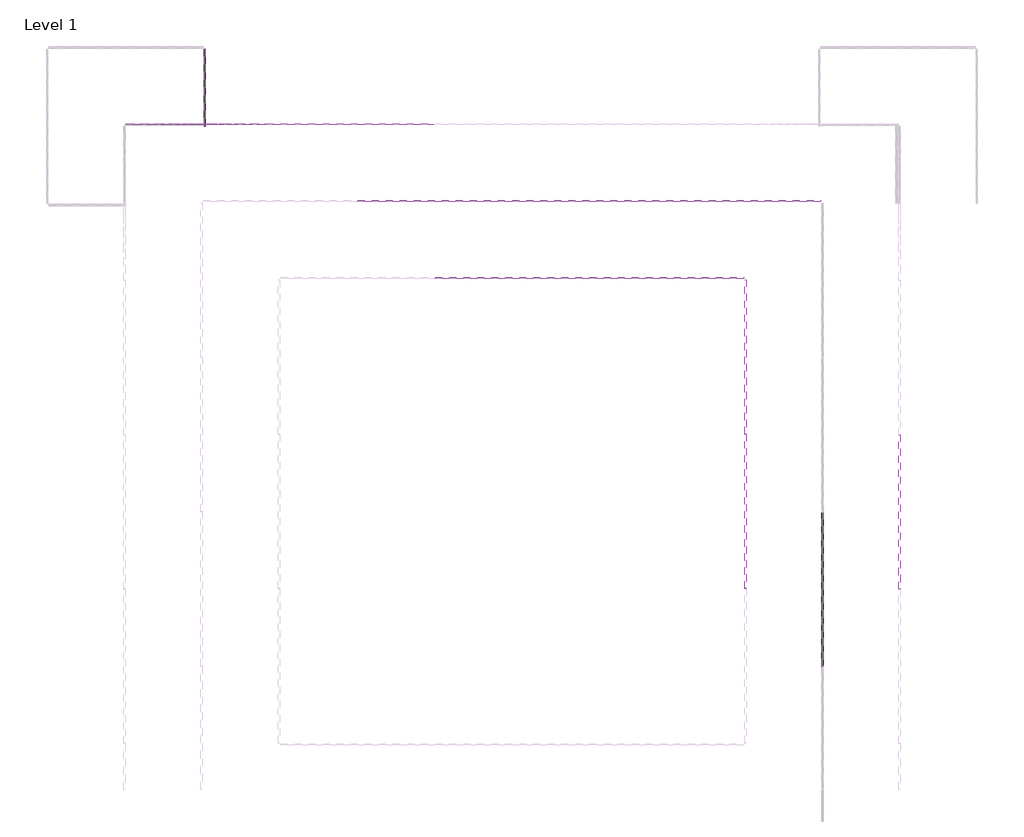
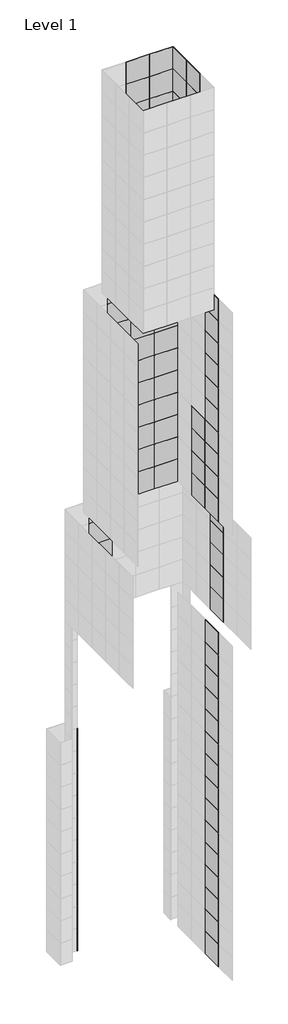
# One storey, part 9 of 15: 134 plates.
"""IFC4 building model written with IfcOpenShell, lengths in millimetres."""

from ifc_helpers import new_model, si_unit, origin, place, context, project, spatial, transform, mapped, element, save
from components import system_panel_glazed_9c75bc08, system_panel_glazed_0a0842ec, system_panel_glazed_aa64d645, system_panel_glazed_b248394d

model = new_model("IFC4")

# Units and contexts
model_context = context("Model", 3, world=origin())
ifc_project = project(units=[si_unit("LENGTHUNIT", "METRE", prefix="MILLI")], contexts=[model_context])

# Site, building, storey
site = spatial("IfcSite", under=ifc_project)
building = spatial("IfcBuilding", under=site)
storey = spatial("IfcBuildingStorey", under=building, Name="Level 1", Elevation=0.0)

# Plates
placement = place(None, origin())
system_panel_glazed_shape = system_panel_glazed_9c75bc08(model_context)
element("IfcPlate", 1, ObjectType="System Panel : Glazed", at=placement, inside=storey, context=model_context, shape_type="MappedRepresentation", body=[
    mapped(system_panel_glazed_shape, transform((-19315.4161695, 10259.9495511, 0.0), x_axis=(0.0, 1.0, 0.0), y_axis=(-1.0, 0.0, 0.0), z_axis=(0.0, 0.0, 1.0))),
])
element("IfcPlate", 2, ObjectType="System Panel : Glazed", at=placement, inside=storey, context=model_context, shape_type="MappedRepresentation", body=[
    mapped(system_panel_glazed_shape, transform((-19315.4161695, 10259.9495511, 3048.0), x_axis=(0.0, 1.0, 0.0), y_axis=(-1.0, 0.0, 0.0), z_axis=(0.0, 0.0, 1.0))),
])
element("IfcPlate", 3, ObjectType="System Panel : Glazed", at=placement, inside=storey, context=model_context, shape_type="MappedRepresentation", body=[
    mapped(system_panel_glazed_shape, transform((-19315.4161695, 10259.9495511, 6096.0), x_axis=(0.0, 1.0, 0.0), y_axis=(-1.0, 0.0, 0.0), z_axis=(0.0, 0.0, 1.0))),
])
element("IfcPlate", 4, ObjectType="System Panel : Glazed", at=placement, inside=storey, context=model_context, shape_type="MappedRepresentation", body=[
    mapped(system_panel_glazed_shape, transform((-19315.4161695, 10259.9495511, 9144.0), x_axis=(0.0, 1.0, 0.0), y_axis=(-1.0, 0.0, 0.0), z_axis=(0.0, 0.0, 1.0))),
])
element("IfcPlate", 5, ObjectType="System Panel : Glazed", at=placement, inside=storey, context=model_context, shape_type="MappedRepresentation", body=[
    mapped(system_panel_glazed_shape, transform((-19315.4161695, 10259.9495511, 12192.0), x_axis=(0.0, 1.0, 0.0), y_axis=(-1.0, 0.0, 0.0), z_axis=(0.0, 0.0, 1.0))),
])
element("IfcPlate", 6, ObjectType="System Panel : Glazed", at=placement, inside=storey, context=model_context, shape_type="MappedRepresentation", body=[
    mapped(system_panel_glazed_shape, transform((-19315.4161695, 10259.9495511, 15240.0), x_axis=(0.0, 1.0, 0.0), y_axis=(-1.0, 0.0, 0.0), z_axis=(0.0, 0.0, 1.0))),
])
element("IfcPlate", 7, ObjectType="System Panel : Glazed", at=placement, inside=storey, context=model_context, shape_type="MappedRepresentation", body=[
    mapped(system_panel_glazed_shape, transform((-19315.4161695, 10259.9495511, 18288.0), x_axis=(0.0, 1.0, 0.0), y_axis=(-1.0, 0.0, 0.0), z_axis=(0.0, 0.0, 1.0))),
])
element("IfcPlate", 8, ObjectType="System Panel : Glazed", at=placement, inside=storey, context=model_context, shape_type="MappedRepresentation", body=[
    mapped(system_panel_glazed_shape, transform((-19315.4161695, 10259.9495511, 21336.0), x_axis=(0.0, 1.0, 0.0), y_axis=(-1.0, 0.0, 0.0), z_axis=(0.0, 0.0, 1.0))),
])
element("IfcPlate", 9, ObjectType="System Panel : Glazed", at=placement, inside=storey, context=model_context, shape_type="MappedRepresentation", body=[
    mapped(system_panel_glazed_shape, transform((-19315.4161695, 10259.9495511, 24384.0), x_axis=(0.0, 1.0, 0.0), y_axis=(-1.0, 0.0, 0.0), z_axis=(0.0, 0.0, 1.0))),
])
element("IfcPlate", 10, ObjectType="System Panel : Glazed", at=placement, inside=storey, context=model_context, shape_type="MappedRepresentation", body=[
    mapped(system_panel_glazed_shape, transform((-19315.4161695, 10259.9495511, 27432.0), x_axis=(0.0, 1.0, 0.0), y_axis=(-1.0, 0.0, 0.0), z_axis=(0.0, 0.0, 1.0))),
])
system_panel_glazed_2_shape = system_panel_glazed_0a0842ec(model_context)
element("IfcPlate", 11, ObjectType="System Panel : Glazed", at=placement, inside=storey, context=model_context, shape_type="MappedRepresentation", body=[
    mapped(system_panel_glazed_2_shape, transform((-19315.4161695, 9497.9495511, 45720.0), x_axis=(-1.0, 0.0, 0.0), y_axis=(0.0, -1.0, 0.0), z_axis=(0.0, 0.0, 1.0))),
])
system_panel_glazed_3_shape = system_panel_glazed_aa64d645(model_context)
element("IfcPlate", 12, ObjectType="System Panel : Glazed", at=placement, inside=storey, context=model_context, shape_type="MappedRepresentation", body=[
    mapped(system_panel_glazed_3_shape, transform((-5599.4161695, 1877.9495511, 45720.0), x_axis=(0.0, 1.0, 0.0), y_axis=(-1.0, 0.0, 0.0), z_axis=(0.0, 0.0, 1.0))),
])
element("IfcPlate", 13, ObjectType="System Panel : Glazed", at=placement, inside=storey, context=model_context, shape_type="MappedRepresentation", body=[
    mapped(system_panel_glazed_3_shape, transform((-5599.4161695, 1877.9495511, 48768.0), x_axis=(0.0, 1.0, 0.0), y_axis=(-1.0, 0.0, 0.0), z_axis=(0.0, 0.0, 1.0))),
])
element("IfcPlate", 14, ObjectType="System Panel : Glazed", at=placement, inside=storey, context=model_context, shape_type="MappedRepresentation", body=[
    mapped(system_panel_glazed_3_shape, transform((-5599.4161695, 1877.9495511, 51816.0), x_axis=(0.0, 1.0, 0.0), y_axis=(-1.0, 0.0, 0.0), z_axis=(0.0, 0.0, 1.0))),
])
element("IfcPlate", 15, ObjectType="System Panel : Glazed", at=placement, inside=storey, context=model_context, shape_type="MappedRepresentation", body=[
    mapped(system_panel_glazed_3_shape, transform((-5599.4161695, 1877.9495511, 54864.0), x_axis=(0.0, 1.0, 0.0), y_axis=(-1.0, 0.0, 0.0), z_axis=(0.0, 0.0, 1.0))),
])
element("IfcPlate", 16, ObjectType="System Panel : Glazed", at=placement, inside=storey, context=model_context, shape_type="MappedRepresentation", body=[
    mapped(system_panel_glazed_3_shape, transform((-5599.4161695, 1877.9495511, 57912.0), x_axis=(0.0, 1.0, 0.0), y_axis=(-1.0, 0.0, 0.0), z_axis=(0.0, 0.0, 1.0))),
])
element("IfcPlate", 17, ObjectType="System Panel : Glazed", at=placement, inside=storey, context=model_context, shape_type="MappedRepresentation", body=[
    mapped(system_panel_glazed_3_shape, transform((-16267.4161695, 9497.9495511, 45720.0), x_axis=(-1.0, 0.0, 0.0), y_axis=(0.0, -1.0, 0.0), z_axis=(0.0, 0.0, 1.0))),
])
element("IfcPlate", 18, ObjectType="System Panel : Glazed", at=placement, inside=storey, context=model_context, shape_type="MappedRepresentation", body=[
    mapped(system_panel_glazed_3_shape, transform((-16267.4161695, 9497.9495511, 48768.0), x_axis=(-1.0, 0.0, 0.0), y_axis=(0.0, -1.0, 0.0), z_axis=(0.0, 0.0, 1.0))),
])
element("IfcPlate", 19, ObjectType="System Panel : Glazed", at=placement, inside=storey, context=model_context, shape_type="MappedRepresentation", body=[
    mapped(system_panel_glazed_3_shape, transform((-16267.4161695, 9497.9495511, 51816.0), x_axis=(-1.0, 0.0, 0.0), y_axis=(0.0, -1.0, 0.0), z_axis=(0.0, 0.0, 1.0))),
])
element("IfcPlate", 20, ObjectType="System Panel : Glazed", at=placement, inside=storey, context=model_context, shape_type="MappedRepresentation", body=[
    mapped(system_panel_glazed_3_shape, transform((-16267.4161695, 9497.9495511, 54864.0), x_axis=(-1.0, 0.0, 0.0), y_axis=(0.0, -1.0, 0.0), z_axis=(0.0, 0.0, 1.0))),
])
element("IfcPlate", 21, ObjectType="System Panel : Glazed", at=placement, inside=storey, context=model_context, shape_type="MappedRepresentation", body=[
    mapped(system_panel_glazed_3_shape, transform((-16267.4161695, 9497.9495511, 57912.0), x_axis=(-1.0, 0.0, 0.0), y_axis=(0.0, -1.0, 0.0), z_axis=(0.0, 0.0, 1.0))),
])
element("IfcPlate", 22, ObjectType="System Panel : Glazed", at=placement, inside=storey, context=model_context, shape_type="MappedRepresentation", body=[
    mapped(system_panel_glazed_3_shape, transform((-7123.4161695, 353.9495511, 60960.0), x_axis=(0.0, 1.0, 0.0), y_axis=(-1.0, 0.0, 0.0), z_axis=(0.0, 0.0, 1.0))),
])
element("IfcPlate", 23, ObjectType="System Panel : Glazed", at=placement, inside=storey, context=model_context, shape_type="MappedRepresentation", body=[
    mapped(system_panel_glazed_3_shape, transform((-7123.4161695, 3401.9495511, 60960.0), x_axis=(0.0, 1.0, 0.0), y_axis=(-1.0, 0.0, 0.0), z_axis=(0.0, 0.0, 1.0))),
])
element("IfcPlate", 24, ObjectType="System Panel : Glazed", at=placement, inside=storey, context=model_context, shape_type="MappedRepresentation", body=[
    mapped(system_panel_glazed_3_shape, transform((-7123.4161695, 353.9495511, 64008.0), x_axis=(0.0, 1.0, 0.0), y_axis=(-1.0, 0.0, 0.0), z_axis=(0.0, 0.0, 1.0))),
])
element("IfcPlate", 25, ObjectType="System Panel : Glazed", at=placement, inside=storey, context=model_context, shape_type="MappedRepresentation", body=[
    mapped(system_panel_glazed_3_shape, transform((-7123.4161695, 3401.9495511, 64008.0), x_axis=(0.0, 1.0, 0.0), y_axis=(-1.0, 0.0, 0.0), z_axis=(0.0, 0.0, 1.0))),
])
element("IfcPlate", 26, ObjectType="System Panel : Glazed", at=placement, inside=storey, context=model_context, shape_type="MappedRepresentation", body=[
    mapped(system_panel_glazed_3_shape, transform((-7123.4161695, 353.9495511, 67056.0), x_axis=(0.0, 1.0, 0.0), y_axis=(-1.0, 0.0, 0.0), z_axis=(0.0, 0.0, 1.0))),
])
element("IfcPlate", 27, ObjectType="System Panel : Glazed", at=placement, inside=storey, context=model_context, shape_type="MappedRepresentation", body=[
    mapped(system_panel_glazed_3_shape, transform((-7123.4161695, 3401.9495511, 67056.0), x_axis=(0.0, 1.0, 0.0), y_axis=(-1.0, 0.0, 0.0), z_axis=(0.0, 0.0, 1.0))),
])
element("IfcPlate", 28, ObjectType="System Panel : Glazed", at=placement, inside=storey, context=model_context, shape_type="MappedRepresentation", body=[
    mapped(system_panel_glazed_3_shape, transform((-7123.4161695, 353.9495511, 70104.0), x_axis=(0.0, 1.0, 0.0), y_axis=(-1.0, 0.0, 0.0), z_axis=(0.0, 0.0, 1.0))),
])
element("IfcPlate", 29, ObjectType="System Panel : Glazed", at=placement, inside=storey, context=model_context, shape_type="MappedRepresentation", body=[
    mapped(system_panel_glazed_3_shape, transform((-7123.4161695, 3401.9495511, 70104.0), x_axis=(0.0, 1.0, 0.0), y_axis=(-1.0, 0.0, 0.0), z_axis=(0.0, 0.0, 1.0))),
])
element("IfcPlate", 30, ObjectType="System Panel : Glazed", at=placement, inside=storey, context=model_context, shape_type="MappedRepresentation", body=[
    mapped(system_panel_glazed_3_shape, transform((-7123.4161695, 353.9495511, 73152.0), x_axis=(0.0, 1.0, 0.0), y_axis=(-1.0, 0.0, 0.0), z_axis=(0.0, 0.0, 1.0))),
])
element("IfcPlate", 31, ObjectType="System Panel : Glazed", at=placement, inside=storey, context=model_context, shape_type="MappedRepresentation", body=[
    mapped(system_panel_glazed_3_shape, transform((-7123.4161695, 353.9495511, 76200.0), x_axis=(0.0, 1.0, 0.0), y_axis=(-1.0, 0.0, 0.0), z_axis=(0.0, 0.0, 1.0))),
])
element("IfcPlate", 32, ObjectType="System Panel : Glazed", at=placement, inside=storey, context=model_context, shape_type="MappedRepresentation", body=[
    mapped(system_panel_glazed_3_shape, transform((-7123.4161695, 353.9495511, 79248.0), x_axis=(0.0, 1.0, 0.0), y_axis=(-1.0, 0.0, 0.0), z_axis=(0.0, 0.0, 1.0))),
])
element("IfcPlate", 33, ObjectType="System Panel : Glazed", at=placement, inside=storey, context=model_context, shape_type="MappedRepresentation", body=[
    mapped(system_panel_glazed_3_shape, transform((-7123.4161695, 353.9495511, 82296.0), x_axis=(0.0, 1.0, 0.0), y_axis=(-1.0, 0.0, 0.0), z_axis=(0.0, 0.0, 1.0))),
])
element("IfcPlate", 34, ObjectType="System Panel : Glazed", at=placement, inside=storey, context=model_context, shape_type="MappedRepresentation", body=[
    mapped(system_panel_glazed_3_shape, transform((-7123.4161695, 353.9495511, 85344.0), x_axis=(0.0, 1.0, 0.0), y_axis=(-1.0, 0.0, 0.0), z_axis=(0.0, 0.0, 1.0))),
])
element("IfcPlate", 35, ObjectType="System Panel : Glazed", at=placement, inside=storey, context=model_context, shape_type="MappedRepresentation", body=[
    mapped(system_panel_glazed_3_shape, transform((-7123.4161695, 353.9495511, 88392.0), x_axis=(0.0, 1.0, 0.0), y_axis=(-1.0, 0.0, 0.0), z_axis=(0.0, 0.0, 1.0))),
])
element("IfcPlate", 36, ObjectType="System Panel : Glazed", at=placement, inside=storey, context=model_context, shape_type="MappedRepresentation", body=[
    mapped(system_panel_glazed_3_shape, transform((-8647.4161695, 7973.9495511, 60960.0), x_axis=(-1.0, 0.0, 0.0), y_axis=(0.0, -1.0, 0.0), z_axis=(0.0, 0.0, 1.0))),
])
element("IfcPlate", 37, ObjectType="System Panel : Glazed", at=placement, inside=storey, context=model_context, shape_type="MappedRepresentation", body=[
    mapped(system_panel_glazed_3_shape, transform((-11695.4161695, 7973.9495511, 60960.0), x_axis=(-1.0, 0.0, 0.0), y_axis=(0.0, -1.0, 0.0), z_axis=(0.0, 0.0, 1.0))),
])
element("IfcPlate", 38, ObjectType="System Panel : Glazed", at=placement, inside=storey, context=model_context, shape_type="MappedRepresentation", body=[
    mapped(system_panel_glazed_3_shape, transform((-14743.4161695, 7973.9495511, 60960.0), x_axis=(-1.0, 0.0, 0.0), y_axis=(0.0, -1.0, 0.0), z_axis=(0.0, 0.0, 1.0))),
])
element("IfcPlate", 39, ObjectType="System Panel : Glazed", at=placement, inside=storey, context=model_context, shape_type="MappedRepresentation", body=[
    mapped(system_panel_glazed_3_shape, transform((-8647.4161695, 7973.9495511, 64008.0), x_axis=(-1.0, 0.0, 0.0), y_axis=(0.0, -1.0, 0.0), z_axis=(0.0, 0.0, 1.0))),
])
element("IfcPlate", 40, ObjectType="System Panel : Glazed", at=placement, inside=storey, context=model_context, shape_type="MappedRepresentation", body=[
    mapped(system_panel_glazed_3_shape, transform((-11695.4161695, 7973.9495511, 64008.0), x_axis=(-1.0, 0.0, 0.0), y_axis=(0.0, -1.0, 0.0), z_axis=(0.0, 0.0, 1.0))),
])
element("IfcPlate", 41, ObjectType="System Panel : Glazed", at=placement, inside=storey, context=model_context, shape_type="MappedRepresentation", body=[
    mapped(system_panel_glazed_3_shape, transform((-14743.4161695, 7973.9495511, 64008.0), x_axis=(-1.0, 0.0, 0.0), y_axis=(0.0, -1.0, 0.0), z_axis=(0.0, 0.0, 1.0))),
])
element("IfcPlate", 42, ObjectType="System Panel : Glazed", at=placement, inside=storey, context=model_context, shape_type="MappedRepresentation", body=[
    mapped(system_panel_glazed_3_shape, transform((-8647.4161695, 7973.9495511, 67056.0), x_axis=(-1.0, 0.0, 0.0), y_axis=(0.0, -1.0, 0.0), z_axis=(0.0, 0.0, 1.0))),
])
element("IfcPlate", 43, ObjectType="System Panel : Glazed", at=placement, inside=storey, context=model_context, shape_type="MappedRepresentation", body=[
    mapped(system_panel_glazed_3_shape, transform((-11695.4161695, 7973.9495511, 67056.0), x_axis=(-1.0, 0.0, 0.0), y_axis=(0.0, -1.0, 0.0), z_axis=(0.0, 0.0, 1.0))),
])
element("IfcPlate", 44, ObjectType="System Panel : Glazed", at=placement, inside=storey, context=model_context, shape_type="MappedRepresentation", body=[
    mapped(system_panel_glazed_3_shape, transform((-14743.4161695, 7973.9495511, 67056.0), x_axis=(-1.0, 0.0, 0.0), y_axis=(0.0, -1.0, 0.0), z_axis=(0.0, 0.0, 1.0))),
])
element("IfcPlate", 45, ObjectType="System Panel : Glazed", at=placement, inside=storey, context=model_context, shape_type="MappedRepresentation", body=[
    mapped(system_panel_glazed_3_shape, transform((-8647.4161695, 7973.9495511, 70104.0), x_axis=(-1.0, 0.0, 0.0), y_axis=(0.0, -1.0, 0.0), z_axis=(0.0, 0.0, 1.0))),
])
element("IfcPlate", 46, ObjectType="System Panel : Glazed", at=placement, inside=storey, context=model_context, shape_type="MappedRepresentation", body=[
    mapped(system_panel_glazed_3_shape, transform((-11695.4161695, 7973.9495511, 70104.0), x_axis=(-1.0, 0.0, 0.0), y_axis=(0.0, -1.0, 0.0), z_axis=(0.0, 0.0, 1.0))),
])
element("IfcPlate", 47, ObjectType="System Panel : Glazed", at=placement, inside=storey, context=model_context, shape_type="MappedRepresentation", body=[
    mapped(system_panel_glazed_3_shape, transform((-14743.4161695, 7973.9495511, 70104.0), x_axis=(-1.0, 0.0, 0.0), y_axis=(0.0, -1.0, 0.0), z_axis=(0.0, 0.0, 1.0))),
])
element("IfcPlate", 48, ObjectType="System Panel : Glazed", at=placement, inside=storey, context=model_context, shape_type="MappedRepresentation", body=[
    mapped(system_panel_glazed_3_shape, transform((-8647.4161695, 7973.9495511, 73152.0), x_axis=(-1.0, 0.0, 0.0), y_axis=(0.0, -1.0, 0.0), z_axis=(0.0, 0.0, 1.0))),
])
element("IfcPlate", 49, ObjectType="System Panel : Glazed", at=placement, inside=storey, context=model_context, shape_type="MappedRepresentation", body=[
    mapped(system_panel_glazed_3_shape, transform((-11695.4161695, 7973.9495511, 73152.0), x_axis=(-1.0, 0.0, 0.0), y_axis=(0.0, -1.0, 0.0), z_axis=(0.0, 0.0, 1.0))),
])
element("IfcPlate", 50, ObjectType="System Panel : Glazed", at=placement, inside=storey, context=model_context, shape_type="MappedRepresentation", body=[
    mapped(system_panel_glazed_3_shape, transform((-14743.4161695, 7973.9495511, 73152.0), x_axis=(-1.0, 0.0, 0.0), y_axis=(0.0, -1.0, 0.0), z_axis=(0.0, 0.0, 1.0))),
])
element("IfcPlate", 51, ObjectType="System Panel : Glazed", at=placement, inside=storey, context=model_context, shape_type="MappedRepresentation", body=[
    mapped(system_panel_glazed_3_shape, transform((-8647.4161695, 7973.9495511, 76200.0), x_axis=(-1.0, 0.0, 0.0), y_axis=(0.0, -1.0, 0.0), z_axis=(0.0, 0.0, 1.0))),
])
element("IfcPlate", 52, ObjectType="System Panel : Glazed", at=placement, inside=storey, context=model_context, shape_type="MappedRepresentation", body=[
    mapped(system_panel_glazed_3_shape, transform((-11695.4161695, 7973.9495511, 76200.0), x_axis=(-1.0, 0.0, 0.0), y_axis=(0.0, -1.0, 0.0), z_axis=(0.0, 0.0, 1.0))),
])
element("IfcPlate", 53, ObjectType="System Panel : Glazed", at=placement, inside=storey, context=model_context, shape_type="MappedRepresentation", body=[
    mapped(system_panel_glazed_3_shape, transform((-14743.4161695, 7973.9495511, 76200.0), x_axis=(-1.0, 0.0, 0.0), y_axis=(0.0, -1.0, 0.0), z_axis=(0.0, 0.0, 1.0))),
])
element("IfcPlate", 54, ObjectType="System Panel : Glazed", at=placement, inside=storey, context=model_context, shape_type="MappedRepresentation", body=[
    mapped(system_panel_glazed_3_shape, transform((-8647.4161695, 7973.9495511, 79248.0), x_axis=(-1.0, 0.0, 0.0), y_axis=(0.0, -1.0, 0.0), z_axis=(0.0, 0.0, 1.0))),
])
element("IfcPlate", 55, ObjectType="System Panel : Glazed", at=placement, inside=storey, context=model_context, shape_type="MappedRepresentation", body=[
    mapped(system_panel_glazed_3_shape, transform((-11695.4161695, 7973.9495511, 79248.0), x_axis=(-1.0, 0.0, 0.0), y_axis=(0.0, -1.0, 0.0), z_axis=(0.0, 0.0, 1.0))),
])
element("IfcPlate", 56, ObjectType="System Panel : Glazed", at=placement, inside=storey, context=model_context, shape_type="MappedRepresentation", body=[
    mapped(system_panel_glazed_3_shape, transform((-14743.4161695, 7973.9495511, 79248.0), x_axis=(-1.0, 0.0, 0.0), y_axis=(0.0, -1.0, 0.0), z_axis=(0.0, 0.0, 1.0))),
])
element("IfcPlate", 57, ObjectType="System Panel : Glazed", at=placement, inside=storey, context=model_context, shape_type="MappedRepresentation", body=[
    mapped(system_panel_glazed_3_shape, transform((-8647.4161695, 7973.9495511, 82296.0), x_axis=(-1.0, 0.0, 0.0), y_axis=(0.0, -1.0, 0.0), z_axis=(0.0, 0.0, 1.0))),
])
element("IfcPlate", 58, ObjectType="System Panel : Glazed", at=placement, inside=storey, context=model_context, shape_type="MappedRepresentation", body=[
    mapped(system_panel_glazed_3_shape, transform((-11695.4161695, 7973.9495511, 82296.0), x_axis=(-1.0, 0.0, 0.0), y_axis=(0.0, -1.0, 0.0), z_axis=(0.0, 0.0, 1.0))),
])
element("IfcPlate", 59, ObjectType="System Panel : Glazed", at=placement, inside=storey, context=model_context, shape_type="MappedRepresentation", body=[
    mapped(system_panel_glazed_3_shape, transform((-14743.4161695, 7973.9495511, 82296.0), x_axis=(-1.0, 0.0, 0.0), y_axis=(0.0, -1.0, 0.0), z_axis=(0.0, 0.0, 1.0))),
])
element("IfcPlate", 60, ObjectType="System Panel : Glazed", at=placement, inside=storey, context=model_context, shape_type="MappedRepresentation", body=[
    mapped(system_panel_glazed_3_shape, transform((-8647.4161695, 7973.9495511, 85344.0), x_axis=(-1.0, 0.0, 0.0), y_axis=(0.0, -1.0, 0.0), z_axis=(0.0, 0.0, 1.0))),
])
element("IfcPlate", 61, ObjectType="System Panel : Glazed", at=placement, inside=storey, context=model_context, shape_type="MappedRepresentation", body=[
    mapped(system_panel_glazed_3_shape, transform((-11695.4161695, 7973.9495511, 85344.0), x_axis=(-1.0, 0.0, 0.0), y_axis=(0.0, -1.0, 0.0), z_axis=(0.0, 0.0, 1.0))),
])
element("IfcPlate", 62, ObjectType="System Panel : Glazed", at=placement, inside=storey, context=model_context, shape_type="MappedRepresentation", body=[
    mapped(system_panel_glazed_3_shape, transform((-14743.4161695, 7973.9495511, 85344.0), x_axis=(-1.0, 0.0, 0.0), y_axis=(0.0, -1.0, 0.0), z_axis=(0.0, 0.0, 1.0))),
])
element("IfcPlate", 63, ObjectType="System Panel : Glazed", at=placement, inside=storey, context=model_context, shape_type="MappedRepresentation", body=[
    mapped(system_panel_glazed_3_shape, transform((-8647.4161695, 7973.9495511, 88392.0), x_axis=(-1.0, 0.0, 0.0), y_axis=(0.0, -1.0, 0.0), z_axis=(0.0, 0.0, 1.0))),
])
element("IfcPlate", 64, ObjectType="System Panel : Glazed", at=placement, inside=storey, context=model_context, shape_type="MappedRepresentation", body=[
    mapped(system_panel_glazed_3_shape, transform((-11695.4161695, 7973.9495511, 88392.0), x_axis=(-1.0, 0.0, 0.0), y_axis=(0.0, -1.0, 0.0), z_axis=(0.0, 0.0, 1.0))),
])
element("IfcPlate", 65, ObjectType="System Panel : Glazed", at=placement, inside=storey, context=model_context, shape_type="MappedRepresentation", body=[
    mapped(system_panel_glazed_3_shape, transform((-14743.4161695, 7973.9495511, 88392.0), x_axis=(-1.0, 0.0, 0.0), y_axis=(0.0, -1.0, 0.0), z_axis=(0.0, 0.0, 1.0))),
])
element("IfcPlate", 66, ObjectType="System Panel : Glazed", at=placement, inside=storey, context=model_context, shape_type="MappedRepresentation", body=[
    mapped(system_panel_glazed_3_shape, transform((-10165.8488996, 6449.9495511, 91440.0), x_axis=(-1.0, 0.0, 0.0), y_axis=(0.0, -1.0, 0.0), z_axis=(0.0, 0.0, 1.0))),
])
element("IfcPlate", 67, ObjectType="System Panel : Glazed", at=placement, inside=storey, context=model_context, shape_type="MappedRepresentation", body=[
    mapped(system_panel_glazed_3_shape, transform((-13213.8488996, 6449.9495511, 91440.0), x_axis=(-1.0, 0.0, 0.0), y_axis=(0.0, -1.0, 0.0), z_axis=(0.0, 0.0, 1.0))),
])
element("IfcPlate", 68, ObjectType="System Panel : Glazed", at=placement, inside=storey, context=model_context, shape_type="MappedRepresentation", body=[
    mapped(system_panel_glazed_3_shape, transform((-10165.8488996, 6449.9495511, 94488.0), x_axis=(-1.0, 0.0, 0.0), y_axis=(0.0, -1.0, 0.0), z_axis=(0.0, 0.0, 1.0))),
])
element("IfcPlate", 69, ObjectType="System Panel : Glazed", at=placement, inside=storey, context=model_context, shape_type="MappedRepresentation", body=[
    mapped(system_panel_glazed_3_shape, transform((-13213.8488996, 6449.9495511, 94488.0), x_axis=(-1.0, 0.0, 0.0), y_axis=(0.0, -1.0, 0.0), z_axis=(0.0, 0.0, 1.0))),
])
element("IfcPlate", 70, ObjectType="System Panel : Glazed", at=placement, inside=storey, context=model_context, shape_type="MappedRepresentation", body=[
    mapped(system_panel_glazed_3_shape, transform((-10165.8488996, 6449.9495511, 97536.0), x_axis=(-1.0, 0.0, 0.0), y_axis=(0.0, -1.0, 0.0), z_axis=(0.0, 0.0, 1.0))),
])
element("IfcPlate", 71, ObjectType="System Panel : Glazed", at=placement, inside=storey, context=model_context, shape_type="MappedRepresentation", body=[
    mapped(system_panel_glazed_3_shape, transform((-13213.8488996, 6449.9495511, 97536.0), x_axis=(-1.0, 0.0, 0.0), y_axis=(0.0, -1.0, 0.0), z_axis=(0.0, 0.0, 1.0))),
])
element("IfcPlate", 72, ObjectType="System Panel : Glazed", at=placement, inside=storey, context=model_context, shape_type="MappedRepresentation", body=[
    mapped(system_panel_glazed_3_shape, transform((-10165.8488996, 6449.9495511, 100584.0), x_axis=(-1.0, 0.0, 0.0), y_axis=(0.0, -1.0, 0.0), z_axis=(0.0, 0.0, 1.0))),
])
element("IfcPlate", 73, ObjectType="System Panel : Glazed", at=placement, inside=storey, context=model_context, shape_type="MappedRepresentation", body=[
    mapped(system_panel_glazed_3_shape, transform((-13213.8488996, 6449.9495511, 100584.0), x_axis=(-1.0, 0.0, 0.0), y_axis=(0.0, -1.0, 0.0), z_axis=(0.0, 0.0, 1.0))),
])
element("IfcPlate", 74, ObjectType="System Panel : Glazed", at=placement, inside=storey, context=model_context, shape_type="MappedRepresentation", body=[
    mapped(system_panel_glazed_3_shape, transform((-10165.8488996, 6449.9495511, 103632.0), x_axis=(-1.0, 0.0, 0.0), y_axis=(0.0, -1.0, 0.0), z_axis=(0.0, 0.0, 1.0))),
])
element("IfcPlate", 75, ObjectType="System Panel : Glazed", at=placement, inside=storey, context=model_context, shape_type="MappedRepresentation", body=[
    mapped(system_panel_glazed_3_shape, transform((-13213.8488996, 6449.9495511, 103632.0), x_axis=(-1.0, 0.0, 0.0), y_axis=(0.0, -1.0, 0.0), z_axis=(0.0, 0.0, 1.0))),
])
element("IfcPlate", 76, ObjectType="System Panel : Glazed", at=placement, inside=storey, context=model_context, shape_type="MappedRepresentation", body=[
    mapped(system_panel_glazed_3_shape, transform((-10165.8488996, 6449.9495511, 106680.0), x_axis=(-1.0, 0.0, 0.0), y_axis=(0.0, -1.0, 0.0), z_axis=(0.0, 0.0, 1.0))),
])
element("IfcPlate", 77, ObjectType="System Panel : Glazed", at=placement, inside=storey, context=model_context, shape_type="MappedRepresentation", body=[
    mapped(system_panel_glazed_3_shape, transform((-13213.8488996, 6449.9495511, 106680.0), x_axis=(-1.0, 0.0, 0.0), y_axis=(0.0, -1.0, 0.0), z_axis=(0.0, 0.0, 1.0))),
])
element("IfcPlate", 78, ObjectType="System Panel : Glazed", at=placement, inside=storey, context=model_context, shape_type="MappedRepresentation", body=[
    mapped(system_panel_glazed_3_shape, transform((-10165.8488996, 6449.9495511, 109728.0), x_axis=(-1.0, 0.0, 0.0), y_axis=(0.0, -1.0, 0.0), z_axis=(0.0, 0.0, 1.0))),
])
element("IfcPlate", 79, ObjectType="System Panel : Glazed", at=placement, inside=storey, context=model_context, shape_type="MappedRepresentation", body=[
    mapped(system_panel_glazed_3_shape, transform((-13213.8488996, 6449.9495511, 109728.0), x_axis=(-1.0, 0.0, 0.0), y_axis=(0.0, -1.0, 0.0), z_axis=(0.0, 0.0, 1.0))),
])
element("IfcPlate", 80, ObjectType="System Panel : Glazed", at=placement, inside=storey, context=model_context, shape_type="MappedRepresentation", body=[
    mapped(system_panel_glazed_3_shape, transform((-10165.8488996, 6449.9495511, 112776.0), x_axis=(-1.0, 0.0, 0.0), y_axis=(0.0, -1.0, 0.0), z_axis=(0.0, 0.0, 1.0))),
])
element("IfcPlate", 81, ObjectType="System Panel : Glazed", at=placement, inside=storey, context=model_context, shape_type="MappedRepresentation", body=[
    mapped(system_panel_glazed_3_shape, transform((-13213.8488996, 6449.9495511, 112776.0), x_axis=(-1.0, 0.0, 0.0), y_axis=(0.0, -1.0, 0.0), z_axis=(0.0, 0.0, 1.0))),
])
element("IfcPlate", 82, ObjectType="System Panel : Glazed", at=placement, inside=storey, context=model_context, shape_type="MappedRepresentation", body=[
    mapped(system_panel_glazed_3_shape, transform((-10165.8488996, 6449.9495511, 115824.0), x_axis=(-1.0, 0.0, 0.0), y_axis=(0.0, -1.0, 0.0), z_axis=(0.0, 0.0, 1.0))),
])
element("IfcPlate", 83, ObjectType="System Panel : Glazed", at=placement, inside=storey, context=model_context, shape_type="MappedRepresentation", body=[
    mapped(system_panel_glazed_3_shape, transform((-13213.8488996, 6449.9495511, 115824.0), x_axis=(-1.0, 0.0, 0.0), y_axis=(0.0, -1.0, 0.0), z_axis=(0.0, 0.0, 1.0))),
])
element("IfcPlate", 84, ObjectType="System Panel : Glazed", at=placement, inside=storey, context=model_context, shape_type="MappedRepresentation", body=[
    mapped(system_panel_glazed_3_shape, transform((-10165.8488996, 6449.9495511, 118872.0), x_axis=(-1.0, 0.0, 0.0), y_axis=(0.0, -1.0, 0.0), z_axis=(0.0, 0.0, 1.0))),
])
element("IfcPlate", 85, ObjectType="System Panel : Glazed", at=placement, inside=storey, context=model_context, shape_type="MappedRepresentation", body=[
    mapped(system_panel_glazed_3_shape, transform((-13213.8488996, 6449.9495511, 118872.0), x_axis=(-1.0, 0.0, 0.0), y_axis=(0.0, -1.0, 0.0), z_axis=(0.0, 0.0, 1.0))),
])
element("IfcPlate", 86, ObjectType="System Panel : Glazed", at=placement, inside=storey, context=model_context, shape_type="MappedRepresentation", body=[
    mapped(system_panel_glazed_3_shape, transform((-8641.8488996, 1877.9495511, 91440.0), x_axis=(0.0, 1.0, 0.0), y_axis=(-1.0, 0.0, 0.0), z_axis=(0.0, 0.0, 1.0))),
])
element("IfcPlate", 87, ObjectType="System Panel : Glazed", at=placement, inside=storey, context=model_context, shape_type="MappedRepresentation", body=[
    mapped(system_panel_glazed_3_shape, transform((-8641.8488996, 4925.9495511, 91440.0), x_axis=(0.0, 1.0, 0.0), y_axis=(-1.0, 0.0, 0.0), z_axis=(0.0, 0.0, 1.0))),
])
element("IfcPlate", 88, ObjectType="System Panel : Glazed", at=placement, inside=storey, context=model_context, shape_type="MappedRepresentation", body=[
    mapped(system_panel_glazed_3_shape, transform((-8641.8488996, 1877.9495511, 94488.0), x_axis=(0.0, 1.0, 0.0), y_axis=(-1.0, 0.0, 0.0), z_axis=(0.0, 0.0, 1.0))),
])
element("IfcPlate", 89, ObjectType="System Panel : Glazed", at=placement, inside=storey, context=model_context, shape_type="MappedRepresentation", body=[
    mapped(system_panel_glazed_3_shape, transform((-8641.8488996, 4925.9495511, 94488.0), x_axis=(0.0, 1.0, 0.0), y_axis=(-1.0, 0.0, 0.0), z_axis=(0.0, 0.0, 1.0))),
])
element("IfcPlate", 90, ObjectType="System Panel : Glazed", at=placement, inside=storey, context=model_context, shape_type="MappedRepresentation", body=[
    mapped(system_panel_glazed_3_shape, transform((-8641.8488996, 1877.9495511, 97536.0), x_axis=(0.0, 1.0, 0.0), y_axis=(-1.0, 0.0, 0.0), z_axis=(0.0, 0.0, 1.0))),
])
element("IfcPlate", 91, ObjectType="System Panel : Glazed", at=placement, inside=storey, context=model_context, shape_type="MappedRepresentation", body=[
    mapped(system_panel_glazed_3_shape, transform((-8641.8488996, 4925.9495511, 97536.0), x_axis=(0.0, 1.0, 0.0), y_axis=(-1.0, 0.0, 0.0), z_axis=(0.0, 0.0, 1.0))),
])
element("IfcPlate", 92, ObjectType="System Panel : Glazed", at=placement, inside=storey, context=model_context, shape_type="MappedRepresentation", body=[
    mapped(system_panel_glazed_3_shape, transform((-8641.8488996, 1877.9495511, 100584.0), x_axis=(0.0, 1.0, 0.0), y_axis=(-1.0, 0.0, 0.0), z_axis=(0.0, 0.0, 1.0))),
])
element("IfcPlate", 93, ObjectType="System Panel : Glazed", at=placement, inside=storey, context=model_context, shape_type="MappedRepresentation", body=[
    mapped(system_panel_glazed_3_shape, transform((-8641.8488996, 4925.9495511, 100584.0), x_axis=(0.0, 1.0, 0.0), y_axis=(-1.0, 0.0, 0.0), z_axis=(0.0, 0.0, 1.0))),
])
element("IfcPlate", 94, ObjectType="System Panel : Glazed", at=placement, inside=storey, context=model_context, shape_type="MappedRepresentation", body=[
    mapped(system_panel_glazed_3_shape, transform((-8641.8488996, 1877.9495511, 103632.0), x_axis=(0.0, 1.0, 0.0), y_axis=(-1.0, 0.0, 0.0), z_axis=(0.0, 0.0, 1.0))),
])
element("IfcPlate", 95, ObjectType="System Panel : Glazed", at=placement, inside=storey, context=model_context, shape_type="MappedRepresentation", body=[
    mapped(system_panel_glazed_3_shape, transform((-8641.8488996, 4925.9495511, 103632.0), x_axis=(0.0, 1.0, 0.0), y_axis=(-1.0, 0.0, 0.0), z_axis=(0.0, 0.0, 1.0))),
])
element("IfcPlate", 96, ObjectType="System Panel : Glazed", at=placement, inside=storey, context=model_context, shape_type="MappedRepresentation", body=[
    mapped(system_panel_glazed_3_shape, transform((-8641.8488996, 1877.9495511, 106680.0), x_axis=(0.0, 1.0, 0.0), y_axis=(-1.0, 0.0, 0.0), z_axis=(0.0, 0.0, 1.0))),
])
element("IfcPlate", 97, ObjectType="System Panel : Glazed", at=placement, inside=storey, context=model_context, shape_type="MappedRepresentation", body=[
    mapped(system_panel_glazed_3_shape, transform((-8641.8488996, 4925.9495511, 106680.0), x_axis=(0.0, 1.0, 0.0), y_axis=(-1.0, 0.0, 0.0), z_axis=(0.0, 0.0, 1.0))),
])
element("IfcPlate", 98, ObjectType="System Panel : Glazed", at=placement, inside=storey, context=model_context, shape_type="MappedRepresentation", body=[
    mapped(system_panel_glazed_3_shape, transform((-8641.8488996, 1877.9495511, 109728.0), x_axis=(0.0, 1.0, 0.0), y_axis=(-1.0, 0.0, 0.0), z_axis=(0.0, 0.0, 1.0))),
])
element("IfcPlate", 99, ObjectType="System Panel : Glazed", at=placement, inside=storey, context=model_context, shape_type="MappedRepresentation", body=[
    mapped(system_panel_glazed_3_shape, transform((-8641.8488996, 4925.9495511, 109728.0), x_axis=(0.0, 1.0, 0.0), y_axis=(-1.0, 0.0, 0.0), z_axis=(0.0, 0.0, 1.0))),
])
element("IfcPlate", 100, ObjectType="System Panel : Glazed", at=placement, inside=storey, context=model_context, shape_type="MappedRepresentation", body=[
    mapped(system_panel_glazed_3_shape, transform((-8641.8488996, 1877.9495511, 112776.0), x_axis=(0.0, 1.0, 0.0), y_axis=(-1.0, 0.0, 0.0), z_axis=(0.0, 0.0, 1.0))),
])
element("IfcPlate", 101, ObjectType="System Panel : Glazed", at=placement, inside=storey, context=model_context, shape_type="MappedRepresentation", body=[
    mapped(system_panel_glazed_3_shape, transform((-8641.8488996, 4925.9495511, 112776.0), x_axis=(0.0, 1.0, 0.0), y_axis=(-1.0, 0.0, 0.0), z_axis=(0.0, 0.0, 1.0))),
])
element("IfcPlate", 102, ObjectType="System Panel : Glazed", at=placement, inside=storey, context=model_context, shape_type="MappedRepresentation", body=[
    mapped(system_panel_glazed_3_shape, transform((-8641.8488996, 1877.9495511, 115824.0), x_axis=(0.0, 1.0, 0.0), y_axis=(-1.0, 0.0, 0.0), z_axis=(0.0, 0.0, 1.0))),
])
element("IfcPlate", 103, ObjectType="System Panel : Glazed", at=placement, inside=storey, context=model_context, shape_type="MappedRepresentation", body=[
    mapped(system_panel_glazed_3_shape, transform((-8641.8488996, 4925.9495511, 115824.0), x_axis=(0.0, 1.0, 0.0), y_axis=(-1.0, 0.0, 0.0), z_axis=(0.0, 0.0, 1.0))),
])
element("IfcPlate", 104, ObjectType="System Panel : Glazed", at=placement, inside=storey, context=model_context, shape_type="MappedRepresentation", body=[
    mapped(system_panel_glazed_3_shape, transform((-8641.8488996, 1877.9495511, 118872.0), x_axis=(0.0, 1.0, 0.0), y_axis=(-1.0, 0.0, 0.0), z_axis=(0.0, 0.0, 1.0))),
])
element("IfcPlate", 105, ObjectType="System Panel : Glazed", at=placement, inside=storey, context=model_context, shape_type="MappedRepresentation", body=[
    mapped(system_panel_glazed_3_shape, transform((-8641.8488996, 4925.9495511, 118872.0), x_axis=(0.0, 1.0, 0.0), y_axis=(-1.0, 0.0, 0.0), z_axis=(0.0, 0.0, 1.0))),
])
element("IfcPlate", 106, ObjectType="System Panel : Glazed", at=placement, inside=storey, context=model_context, shape_type="MappedRepresentation", body=[
    mapped(system_panel_glazed_3_shape, transform((-16267.4161695, 9497.9495511, 45720.0), x_axis=(-1.0, 0.0, 0.0), y_axis=(0.0, -1.0, 0.0), z_axis=(0.0, 0.0, 1.0))),
])
element("IfcPlate", 107, ObjectType="System Panel : Glazed", at=placement, inside=storey, context=model_context, shape_type="MappedRepresentation", body=[
    mapped(system_panel_glazed_3_shape, transform((-16267.4161695, 9497.9495511, 48768.0), x_axis=(-1.0, 0.0, 0.0), y_axis=(0.0, -1.0, 0.0), z_axis=(0.0, 0.0, 1.0))),
])
element("IfcPlate", 108, ObjectType="System Panel : Glazed", at=placement, inside=storey, context=model_context, shape_type="MappedRepresentation", body=[
    mapped(system_panel_glazed_3_shape, transform((-16267.4161695, 9497.9495511, 51816.0), x_axis=(-1.0, 0.0, 0.0), y_axis=(0.0, -1.0, 0.0), z_axis=(0.0, 0.0, 1.0))),
])
element("IfcPlate", 109, ObjectType="System Panel : Glazed", at=placement, inside=storey, context=model_context, shape_type="MappedRepresentation", body=[
    mapped(system_panel_glazed_3_shape, transform((-16267.4161695, 9497.9495511, 54864.0), x_axis=(-1.0, 0.0, 0.0), y_axis=(0.0, -1.0, 0.0), z_axis=(0.0, 0.0, 1.0))),
])
element("IfcPlate", 110, ObjectType="System Panel : Glazed", at=placement, inside=storey, context=model_context, shape_type="MappedRepresentation", body=[
    mapped(system_panel_glazed_3_shape, transform((-16267.4161695, 9497.9495511, 57912.0), x_axis=(-1.0, 0.0, 0.0), y_axis=(0.0, -1.0, 0.0), z_axis=(0.0, 0.0, 1.0))),
])
element("IfcPlate", 111, ObjectType="System Panel : Glazed", at=placement, inside=storey, context=model_context, shape_type="MappedRepresentation", body=[
    mapped(system_panel_glazed_3_shape, transform((-16267.4161695, 9497.9495511, 45720.0), x_axis=(-1.0, 0.0, 0.0), y_axis=(0.0, -1.0, 0.0), z_axis=(0.0, 0.0, 1.0))),
])
element("IfcPlate", 112, ObjectType="System Panel : Glazed", at=placement, inside=storey, context=model_context, shape_type="MappedRepresentation", body=[
    mapped(system_panel_glazed_3_shape, transform((-16267.4161695, 9497.9495511, 48768.0), x_axis=(-1.0, 0.0, 0.0), y_axis=(0.0, -1.0, 0.0), z_axis=(0.0, 0.0, 1.0))),
])
element("IfcPlate", 113, ObjectType="System Panel : Glazed", at=placement, inside=storey, context=model_context, shape_type="MappedRepresentation", body=[
    mapped(system_panel_glazed_3_shape, transform((-19315.4161695, 9497.9495511, 48768.0), x_axis=(-1.0, 0.0, 0.0), y_axis=(0.0, -1.0, 0.0), z_axis=(0.0, 0.0, 1.0))),
])
element("IfcPlate", 114, ObjectType="System Panel : Glazed", at=placement, inside=storey, context=model_context, shape_type="MappedRepresentation", body=[
    mapped(system_panel_glazed_3_shape, transform((-16267.4161695, 9497.9495511, 51816.0), x_axis=(-1.0, 0.0, 0.0), y_axis=(0.0, -1.0, 0.0), z_axis=(0.0, 0.0, 1.0))),
])
element("IfcPlate", 115, ObjectType="System Panel : Glazed", at=placement, inside=storey, context=model_context, shape_type="MappedRepresentation", body=[
    mapped(system_panel_glazed_3_shape, transform((-19315.4161695, 9497.9495511, 51816.0), x_axis=(-1.0, 0.0, 0.0), y_axis=(0.0, -1.0, 0.0), z_axis=(0.0, 0.0, 1.0))),
])
element("IfcPlate", 116, ObjectType="System Panel : Glazed", at=placement, inside=storey, context=model_context, shape_type="MappedRepresentation", body=[
    mapped(system_panel_glazed_3_shape, transform((-16267.4161695, 9497.9495511, 54864.0), x_axis=(-1.0, 0.0, 0.0), y_axis=(0.0, -1.0, 0.0), z_axis=(0.0, 0.0, 1.0))),
])
element("IfcPlate", 117, ObjectType="System Panel : Glazed", at=placement, inside=storey, context=model_context, shape_type="MappedRepresentation", body=[
    mapped(system_panel_glazed_3_shape, transform((-19315.4161695, 9497.9495511, 54864.0), x_axis=(-1.0, 0.0, 0.0), y_axis=(0.0, -1.0, 0.0), z_axis=(0.0, 0.0, 1.0))),
])
element("IfcPlate", 118, ObjectType="System Panel : Glazed", at=placement, inside=storey, context=model_context, shape_type="MappedRepresentation", body=[
    mapped(system_panel_glazed_3_shape, transform((-16267.4161695, 9497.9495511, 57912.0), x_axis=(-1.0, 0.0, 0.0), y_axis=(0.0, -1.0, 0.0), z_axis=(0.0, 0.0, 1.0))),
])
element("IfcPlate", 119, ObjectType="System Panel : Glazed", at=placement, inside=storey, context=model_context, shape_type="MappedRepresentation", body=[
    mapped(system_panel_glazed_3_shape, transform((-19315.4161695, 9497.9495511, 57912.0), x_axis=(-1.0, 0.0, 0.0), y_axis=(0.0, -1.0, 0.0), z_axis=(0.0, 0.0, 1.0))),
])
system_panel_glazed_4_shape = system_panel_glazed_b248394d(model_context)
element("IfcPlate", 120, ObjectType="System Panel : Glazed", at=placement, inside=storey, context=model_context, shape_type="MappedRepresentation", body=[
    mapped(system_panel_glazed_4_shape, transform((-7123.4161695, 353.9495511, 0.0), x_axis=(0.0, -1.0, 0.0), y_axis=(1.0, 0.0, 0.0), z_axis=(0.0, 0.0, 1.0))),
])
element("IfcPlate", 121, ObjectType="System Panel : Glazed", at=placement, inside=storey, context=model_context, shape_type="MappedRepresentation", body=[
    mapped(system_panel_glazed_4_shape, transform((-7123.4161695, 353.9495511, 3048.0), x_axis=(0.0, -1.0, 0.0), y_axis=(1.0, 0.0, 0.0), z_axis=(0.0, 0.0, 1.0))),
])
element("IfcPlate", 122, ObjectType="System Panel : Glazed", at=placement, inside=storey, context=model_context, shape_type="MappedRepresentation", body=[
    mapped(system_panel_glazed_4_shape, transform((-7123.4161695, 353.9495511, 6096.0), x_axis=(0.0, -1.0, 0.0), y_axis=(1.0, 0.0, 0.0), z_axis=(0.0, 0.0, 1.0))),
])
element("IfcPlate", 123, ObjectType="System Panel : Glazed", at=placement, inside=storey, context=model_context, shape_type="MappedRepresentation", body=[
    mapped(system_panel_glazed_4_shape, transform((-7123.4161695, 353.9495511, 9144.0), x_axis=(0.0, -1.0, 0.0), y_axis=(1.0, 0.0, 0.0), z_axis=(0.0, 0.0, 1.0))),
])
element("IfcPlate", 124, ObjectType="System Panel : Glazed", at=placement, inside=storey, context=model_context, shape_type="MappedRepresentation", body=[
    mapped(system_panel_glazed_4_shape, transform((-7123.4161695, 353.9495511, 12192.0), x_axis=(0.0, -1.0, 0.0), y_axis=(1.0, 0.0, 0.0), z_axis=(0.0, 0.0, 1.0))),
])
element("IfcPlate", 125, ObjectType="System Panel : Glazed", at=placement, inside=storey, context=model_context, shape_type="MappedRepresentation", body=[
    mapped(system_panel_glazed_4_shape, transform((-7123.4161695, 353.9495511, 15240.0), x_axis=(0.0, -1.0, 0.0), y_axis=(1.0, 0.0, 0.0), z_axis=(0.0, 0.0, 1.0))),
])
element("IfcPlate", 126, ObjectType="System Panel : Glazed", at=placement, inside=storey, context=model_context, shape_type="MappedRepresentation", body=[
    mapped(system_panel_glazed_4_shape, transform((-7123.4161695, 353.9495511, 18288.0), x_axis=(0.0, -1.0, 0.0), y_axis=(1.0, 0.0, 0.0), z_axis=(0.0, 0.0, 1.0))),
])
element("IfcPlate", 127, ObjectType="System Panel : Glazed", at=placement, inside=storey, context=model_context, shape_type="MappedRepresentation", body=[
    mapped(system_panel_glazed_4_shape, transform((-7123.4161695, 353.9495511, 21336.0), x_axis=(0.0, -1.0, 0.0), y_axis=(1.0, 0.0, 0.0), z_axis=(0.0, 0.0, 1.0))),
])
element("IfcPlate", 128, ObjectType="System Panel : Glazed", at=placement, inside=storey, context=model_context, shape_type="MappedRepresentation", body=[
    mapped(system_panel_glazed_4_shape, transform((-7123.4161695, 353.9495511, 24384.0), x_axis=(0.0, -1.0, 0.0), y_axis=(1.0, 0.0, 0.0), z_axis=(0.0, 0.0, 1.0))),
])
element("IfcPlate", 129, ObjectType="System Panel : Glazed", at=placement, inside=storey, context=model_context, shape_type="MappedRepresentation", body=[
    mapped(system_panel_glazed_4_shape, transform((-7123.4161695, 353.9495511, 27432.0), x_axis=(0.0, -1.0, 0.0), y_axis=(1.0, 0.0, 0.0), z_axis=(0.0, 0.0, 1.0))),
])
element("IfcPlate", 130, ObjectType="System Panel : Glazed", at=placement, inside=storey, context=model_context, shape_type="MappedRepresentation", body=[
    mapped(system_panel_glazed_4_shape, transform((-7123.4161695, 353.9495511, 30480.0), x_axis=(0.0, -1.0, 0.0), y_axis=(1.0, 0.0, 0.0), z_axis=(0.0, 0.0, 1.0))),
])
element("IfcPlate", 131, ObjectType="System Panel : Glazed", at=placement, inside=storey, context=model_context, shape_type="MappedRepresentation", body=[
    mapped(system_panel_glazed_4_shape, transform((-7123.4161695, 353.9495511, 33528.0), x_axis=(0.0, -1.0, 0.0), y_axis=(1.0, 0.0, 0.0), z_axis=(0.0, 0.0, 1.0))),
])
element("IfcPlate", 132, ObjectType="System Panel : Glazed", at=placement, inside=storey, context=model_context, shape_type="MappedRepresentation", body=[
    mapped(system_panel_glazed_4_shape, transform((-7123.4161695, 353.9495511, 36576.0), x_axis=(0.0, -1.0, 0.0), y_axis=(1.0, 0.0, 0.0), z_axis=(0.0, 0.0, 1.0))),
])
element("IfcPlate", 133, ObjectType="System Panel : Glazed", at=placement, inside=storey, context=model_context, shape_type="MappedRepresentation", body=[
    mapped(system_panel_glazed_4_shape, transform((-7123.4161695, 353.9495511, 39624.0), x_axis=(0.0, -1.0, 0.0), y_axis=(1.0, 0.0, 0.0), z_axis=(0.0, 0.0, 1.0))),
])
element("IfcPlate", 134, ObjectType="System Panel : Glazed", at=placement, inside=storey, context=model_context, shape_type="MappedRepresentation", body=[
    mapped(system_panel_glazed_4_shape, transform((-7123.4161695, 353.9495511, 42672.0), x_axis=(0.0, -1.0, 0.0), y_axis=(1.0, 0.0, 0.0), z_axis=(0.0, 0.0, 1.0))),
])

save(model, "model.ifc")
